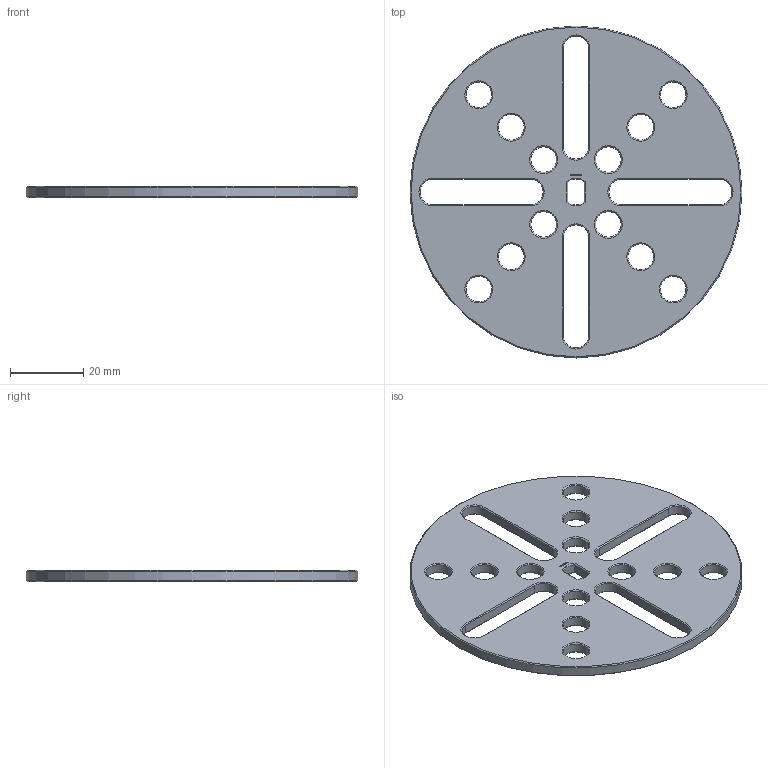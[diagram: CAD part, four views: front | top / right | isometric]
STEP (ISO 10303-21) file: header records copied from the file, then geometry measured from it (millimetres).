
FILE_DESCRIPTION(/* description */ (''),/* implementation_level */ '2;1');
FILE_NAME(/* name */ '/Users/paulokiefe/Desktop/STEMFIE/Fasteners/Washers/Fixed/Washer WSR FXD BU0.25x7.25 - SPN-WSR-0026 v1.step',/* time_stamp */ '2020-09-27T23:20:46+02:00',/* author */ (''),/* organization */ (''),/* preprocessor_version */ 'ST-DEVELOPER v18.1',/* originating_system */ 'Autodesk Translation Framework v9.3.0.1241',/* authorisation */ '');
FILE_SCHEMA (('AUTOMOTIVE_DESIGN { 1 0 10303 214 3 1 1 }'));
Length unit declared in the file: millimetre
Products named in the file (1): Washer WSR FXD BU0.25x7.25 - SPN-WSR-0026
Bounding box: 90.62 x 90.62 x 3.12 mm (x, y, z)
Volume: 15740.4 mm3; surface area: 12540.4 mm2
Topology: 1 solids, 1 shells, 345 faces, 927 edges, 596 vertices
Faces by surface type: plane 276, cone 46, cylinder 23
Full cylindrical faces by diameter (mm): 7 x12, 90.625 x1
Entity records: 10674 total; most frequent: CARTESIAN_POINT 1893, ORIENTED_EDGE 1854, DIRECTION 1703, EDGE_CURVE 927, LINE 827, VECTOR 827, VERTEX_POINT 596, AXIS2_PLACEMENT_3D 438
